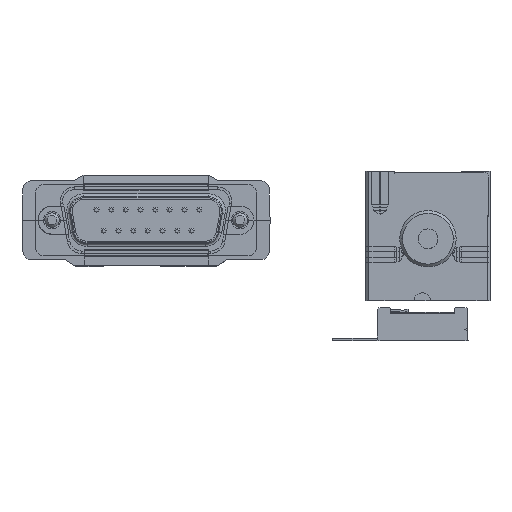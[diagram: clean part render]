
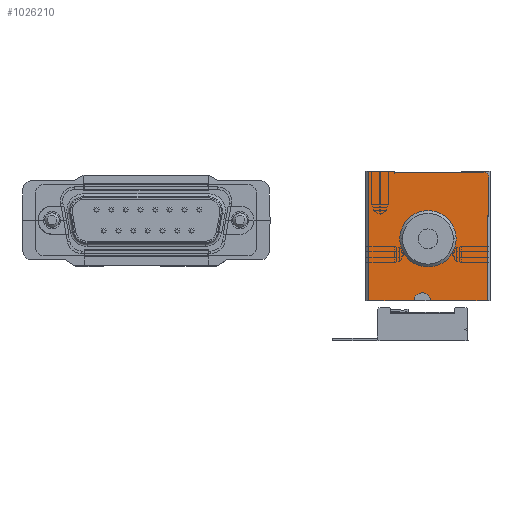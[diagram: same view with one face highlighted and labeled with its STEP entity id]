
A CAD part, front view. The second image highlights one B-rep face of the part: STEP entity #1026210.
In plain terms, the highlighted planar face has unit normal (0, -1, 0) as drawn and (1, 0, 0) by its records, which use the part's own axes.
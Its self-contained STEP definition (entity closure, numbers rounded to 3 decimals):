
#1017530=CARTESIAN_POINT('',(40.,22.,0.));
#1017540=DIRECTION('',(0.,-1.,0.));
#1017550=VECTOR('',#1017540,1.);
#1017560=LINE('',#1017530,#1017550);
#1017570=CARTESIAN_POINT('',(40.,5.,0.));
#1017580=VERTEX_POINT('',#1017570);
#1017590=CARTESIAN_POINT('',(40.,0.5,0.));
#1017600=VERTEX_POINT('',#1017590);
#1017610=EDGE_CURVE('',#1017580,#1017600,#1017560,.T.);
#1020480=CARTESIAN_POINT('',(40.,0.5,-23.));
#1020490=VERTEX_POINT('',#1020480);
#1020520=CARTESIAN_POINT('',(40.,0.,-23.));
#1020530=DIRECTION('',(0.,1.,0.));
#1020540=VECTOR('',#1020530,1.);
#1020550=LINE('',#1020520,#1020540);
#1020560=CARTESIAN_POINT('',(40.,8.6,-23.));
#1020570=VERTEX_POINT('',#1020560);
#1020580=EDGE_CURVE('',#1020490,#1020570,#1020550,.T.);
#1020800=CARTESIAN_POINT('',(40.,11.4,-23.));
#1020810=VERTEX_POINT('',#1020800);
#1020840=CARTESIAN_POINT('',(40.,21.5,-23.));
#1020850=VERTEX_POINT('',#1020840);
#1020860=EDGE_CURVE('',#1020810,#1020850,#1020550,.T.);
#1022780=CARTESIAN_POINT('',(40.,11.4,0.));
#1022790=DIRECTION('',(0.,0.,1.));
#1022800=VECTOR('',#1022790,1.);
#1022810=LINE('',#1022780,#1022800);
#1022820=CARTESIAN_POINT('',(40.,11.4,-22.8));
#1022830=VERTEX_POINT('',#1022820);
#1022840=EDGE_CURVE('',#1020810,#1022830,#1022810,.T.);
#1023510=CARTESIAN_POINT('',(40.,9.8,-22.8));
#1023520=DIRECTION('',(-1.,0.,0.));
#1023530=DIRECTION('',(0.,1.,0.));
#1023540=AXIS2_PLACEMENT_3D('',#1023510,#1023520,#1023530);
#1023550=CIRCLE('',#1023540,1.2);
#1023560=CARTESIAN_POINT('',(40.,8.6,-22.8));
#1023570=VERTEX_POINT('',#1023560);
#1023580=CARTESIAN_POINT('',(40.,9.8,-21.6));
#1023590=VERTEX_POINT('',#1023580);
#1023600=EDGE_CURVE('',#1023570,#1023590,#1023550,.T.);
#1023830=CARTESIAN_POINT('',(40.,0.,-21.6));
#1023840=DIRECTION('',(0.,-1.,0.));
#1023850=VECTOR('',#1023840,1.);
#1023860=LINE('',#1023830,#1023850);
#1023870=CARTESIAN_POINT('',(40.,10.2,-21.6));
#1023880=VERTEX_POINT('',#1023870);
#1023890=EDGE_CURVE('',#1023880,#1023590,#1023860,.T.);
#1024090=CARTESIAN_POINT('',(40.,10.2,-22.8));
#1024100=DIRECTION('',(-1.,0.,0.));
#1024110=DIRECTION('',(0.,1.,0.));
#1024120=AXIS2_PLACEMENT_3D('',#1024090,#1024100,#1024110);
#1024130=CIRCLE('',#1024120,1.2);
#1024140=EDGE_CURVE('',#1023880,#1022830,#1024130,.T.);
#1024270=CARTESIAN_POINT('',(40.,8.6,0.));
#1024280=DIRECTION('',(0.,0.,-1.));
#1024290=VECTOR('',#1024280,1.);
#1024300=LINE('',#1024270,#1024290);
#1024310=EDGE_CURVE('',#1023570,#1020570,#1024300,.T.);
#1024420=CARTESIAN_POINT('',(40.,5.846,-7.9));
#1024430=DIRECTION('',(0.,-1.,0.));
#1024440=VECTOR('',#1024430,1.);
#1024450=LINE('',#1024420,#1024440);
#1024460=CARTESIAN_POINT('',(40.,21.8,-7.9));
#1024470=VERTEX_POINT('',#1024460);
#1024480=CARTESIAN_POINT('',(40.,21.5,-7.9));
#1024490=VERTEX_POINT('',#1024480);
#1024500=EDGE_CURVE('',#1024470,#1024490,#1024450,.T.);
#1025230=CARTESIAN_POINT('',(40.,0.1,-0.8))
;
#1025240=DIRECTION('',(1.,-0.,0.));
#1025250=DIRECTION('',(0.,0.,-1.));
#1025260=AXIS2_PLACEMENT_3D('',#1025230,#1025240,#1025250);
#1025270=PLANE('',#1025260);
#1025280=CARTESIAN_POINT('',(40.,20.9,-1.1));
#1025290=DIRECTION('',(1.,0.,0.));
#1025300=DIRECTION('',(0.,-1.,0.));
#1025310=AXIS2_PLACEMENT_3D('',#1025280,#1025290,#1025300);
#1025320=CIRCLE('',#1025310,0.9);
#1025330=CARTESIAN_POINT('',(40.,21.8,-1.1));
#1025340=VERTEX_POINT('',#1025330);
#1025350=CARTESIAN_POINT('',(40.,20.9,-0.2));
#1025360=VERTEX_POINT('',#1025350);
#1025370=EDGE_CURVE('',#1025340,#1025360,#1025320,.T.);
#1025380=ORIENTED_EDGE('',*,*,#1025370,.T.);
#1025390=CARTESIAN_POINT('',(40.,21.8,-0.8));
#1025400=DIRECTION('',(0.,0.,1.));
#1025410=VECTOR('',#1025400,1.);
#1025420=LINE('',#1025390,#1025410);
#1025430=EDGE_CURVE('',#1024470,#1025340,#1025420,.T.);
#1025440=ORIENTED_EDGE('',*,*,#1025430,.T.);
#1025450=ORIENTED_EDGE('',*,*,#1024500,.F.);
#1025460=CARTESIAN_POINT('',(40.,21.5,0.));
#1025470=DIRECTION('',(0.,0.,1.));
#1025480=VECTOR('',#1025470,1.);
#1025490=LINE('',#1025460,#1025480);
#1025500=CARTESIAN_POINT('',(40.,21.5,-8.));
#1025510=VERTEX_POINT('',#1025500);
#1025520=EDGE_CURVE('',#1025510,#1024490,#1025490,.T.);
#1025530=ORIENTED_EDGE('',*,*,#1025520,.T.);
#1025540=CARTESIAN_POINT('',(40.,21.5,-15.5));
#1025550=DIRECTION('',(0.,0.,-1.));
#1025560=VECTOR('',#1025550,1.);
#1025570=LINE('',#1025540,#1025560);
#1025580=EDGE_CURVE('',#1025510,#1020850,#1025570,.T.);
#1025590=ORIENTED_EDGE('',*,*,#1025580,.F.);
#1025600=ORIENTED_EDGE('',*,*,#1020860,.T.);
#1025610=ORIENTED_EDGE('',*,*,#1022840,.F.);
#1025620=ORIENTED_EDGE('',*,*,#1024140,.T.);
#1025630=ORIENTED_EDGE('',*,*,#1023890,.F.);
#1025640=ORIENTED_EDGE('',*,*,#1023600,.T.);
#1025650=ORIENTED_EDGE('',*,*,#1024310,.F.);
#1025660=ORIENTED_EDGE('',*,*,#1020580,.T.);
#1025670=CARTESIAN_POINT('',(40.,0.5,-11.5));
#1025680=DIRECTION('',(0.,0.,-1.));
#1025690=VECTOR('',#1025680,1.);
#1025700=LINE('',#1025670,#1025690);
#1025710=EDGE_CURVE('',#1017600,#1020490,#1025700,.T.);
#1025720=ORIENTED_EDGE('',*,*,#1025710,.T.);
#1025730=ORIENTED_EDGE('',*,*,#1017610,.T.);
#1025740=CARTESIAN_POINT('',(40.,5.,0.));
#1025750=DIRECTION('',(0.,0.,-1.));
#1025760=VECTOR('',#1025750,1.);
#1025770=LINE('',#1025740,#1025760);
#1025780=CARTESIAN_POINT('',(40.,5.,-0.5));
#1025790=VERTEX_POINT('',#1025780);
#1025800=EDGE_CURVE('',#1017580,#1025790,#1025770,.T.);
#1025810=ORIENTED_EDGE('',*,*,#1025800,.F.);
#1025820=CARTESIAN_POINT('',(40.,0.,-0.5));
#1025830=DIRECTION('',(0.,-1.,0.));
#1025840=VECTOR('',#1025830,1.);
#1025850=LINE('',#1025820,#1025840);
#1025860=CARTESIAN_POINT('',(40.,5.05,-0.5));
#1025870=VERTEX_POINT('',#1025860);
#1025880=EDGE_CURVE('',#1025870,#1025790,#1025850,.T.);
#1025890=ORIENTED_EDGE('',*,*,#1025880,.T.);
#1025900=CARTESIAN_POINT('',(40.,5.05,-0.8));
#1025910=DIRECTION('',(0.,0.,1.));
#1025920=VECTOR('',#1025910,1.);
#1025930=LINE('',#1025900,#1025920);
#1025940=CARTESIAN_POINT('',(40.,5.05,-0.2));
#1025950=VERTEX_POINT('',#1025940);
#1025960=EDGE_CURVE('',#1025870,#1025950,#1025930,.T.);
#1025970=ORIENTED_EDGE('',*,*,#1025960,.F.);
#1025980=CARTESIAN_POINT('',(40.,5.646,-0.2));
#1025990=DIRECTION('',(0.,1.,0.));
#1026000=VECTOR('',#1025990,1.);
#1026010=LINE('',#1025980,#1026000);
#1026020=EDGE_CURVE('',#1025950,#1025360,#1026010,.T.);
#1026030=ORIENTED_EDGE('',*,*,#1026020,.F.);
#1026040=EDGE_LOOP('',(#1026030,#1025970,#1025890,#1025810,#1025730,
#1025720,#1025660,#1025650,#1025640,#1025630,#1025620,#1025610,#1025600,
#1025590,#1025530,#1025450,#1025440,#1025380));
#1026050=FACE_OUTER_BOUND('',#1026040,.T.);
#1026060=CARTESIAN_POINT('',(40.,11.,-12.));
#1026070=DIRECTION('',(1.,0.,0.));
#1026080=DIRECTION('',(0.,1.,0.));
#1026090=AXIS2_PLACEMENT_3D('',#1026060,#1026070,#1026080);
#1026100=CIRCLE('',#1026090,5.);
#1026110=CARTESIAN_POINT('',(40.,16.,-12.));
#1026120=VERTEX_POINT('',#1026110);
#1026130=CARTESIAN_POINT('',(40.,6.,-12.));
#1026140=VERTEX_POINT('',#1026130);
#1026150=EDGE_CURVE('',#1026120,#1026140,#1026100,.T.);
#1026160=ORIENTED_EDGE('',*,*,#1026150,.F.);
#1026170=EDGE_CURVE('',#1026140,#1026120,#1026100,.T.);
#1026180=ORIENTED_EDGE('',*,*,#1026170,.F.);
#1026190=EDGE_LOOP('',(#1026180,#1026160));
#1026200=FACE_BOUND('',#1026190,.T.);
#1026210=ADVANCED_FACE('',(#1026050,#1026200),#1025270,.T.);
